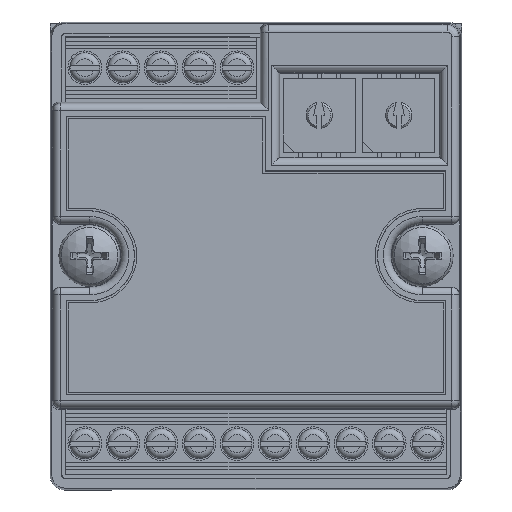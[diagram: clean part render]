
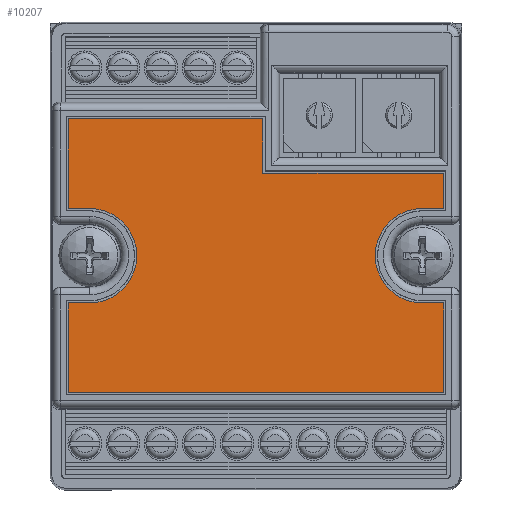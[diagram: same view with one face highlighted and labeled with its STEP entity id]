
A CAD part, top view. The second image highlights one B-rep face of the part: STEP entity #10207.
In plain terms, the highlighted planar face has unit normal (0, 0, 1).
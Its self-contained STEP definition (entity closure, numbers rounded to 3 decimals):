
#9753=CARTESIAN_POINT('',(-9.897,-24.589,23.45));
#9754=VERTEX_POINT('',#9753);
#9755=CARTESIAN_POINT('',(16.045,-24.589,23.45));
#9756=VERTEX_POINT('',#9755);
#9757=CARTESIAN_POINT('',(-9.897,-24.589,23.45));
#9758=DIRECTION('',(1.0,0.0,0.0));
#9759=VECTOR('',#9758,25.942);
#9760=LINE('',#9757,#9759);
#9761=EDGE_CURVE('',#9754,#9756,#9760,.T.);
#9793=CARTESIAN_POINT('',(16.045,-31.871,23.45));
#9794=VERTEX_POINT('',#9793);
#9795=CARTESIAN_POINT('',(16.045,-24.589,23.45));
#9796=DIRECTION('',(0.0,-1.0,0.0));
#9797=VECTOR('',#9796,7.282);
#9798=LINE('',#9795,#9797);
#9799=EDGE_CURVE('',#9756,#9794,#9798,.T.);
#9824=CARTESIAN_POINT('',(40.182,-31.871,23.45));
#9825=VERTEX_POINT('',#9824);
#9826=CARTESIAN_POINT('',(16.045,-31.871,23.45));
#9827=DIRECTION('',(1.0,0.0,0.0));
#9828=VECTOR('',#9827,24.137);
#9829=LINE('',#9826,#9828);
#9830=EDGE_CURVE('',#9794,#9825,#9829,.T.);
#9855=CARTESIAN_POINT('',(40.182,-36.56,23.45));
#9856=VERTEX_POINT('',#9855);
#9857=CARTESIAN_POINT('',(40.182,-31.871,23.45));
#9858=DIRECTION('',(0.0,-1.0,0.0));
#9859=VECTOR('',#9858,4.689);
#9860=LINE('',#9857,#9859);
#9861=EDGE_CURVE('',#9825,#9856,#9860,.T.);
#9886=CARTESIAN_POINT('',(37.368,-36.56,23.45));
#9887=VERTEX_POINT('',#9886);
#9888=CARTESIAN_POINT('',(40.182,-36.56,23.45));
#9889=DIRECTION('',(-1.0,0.0,0.0));
#9890=VECTOR('',#9889,2.815);
#9891=LINE('',#9888,#9890);
#9892=EDGE_CURVE('',#9856,#9887,#9891,.T.);
#9917=CARTESIAN_POINT('',(37.368,-49.178,23.45));
#9918=VERTEX_POINT('',#9917);
#9919=CARTESIAN_POINT('',(37.368,-42.869,23.45));
#9920=DIRECTION('',(0.0,0.0,1.0));
#9921=DIRECTION('',(0.0,1.0,0.0));
#9922=AXIS2_PLACEMENT_3D('',#9919,#9920,#9921);
#9923=CIRCLE('',#9922,6.309);
#9924=EDGE_CURVE('',#9887,#9918,#9923,.T.);
#9950=CARTESIAN_POINT('',(40.182,-49.178,23.45));
#9951=VERTEX_POINT('',#9950);
#9952=CARTESIAN_POINT('',(37.368,-49.178,23.45));
#9953=DIRECTION('',(1.0,0.0,0.0));
#9954=VECTOR('',#9953,2.815);
#9955=LINE('',#9952,#9954);
#9956=EDGE_CURVE('',#9918,#9951,#9955,.T.);
#9981=CARTESIAN_POINT('',(40.182,-61.149,23.45));
#9982=VERTEX_POINT('',#9981);
#9983=CARTESIAN_POINT('',(40.182,-49.178,23.45));
#9984=DIRECTION('',(0.0,-1.0,0.0));
#9985=VECTOR('',#9984,11.971);
#9986=LINE('',#9983,#9985);
#9987=EDGE_CURVE('',#9951,#9982,#9986,.T.);
#10012=CARTESIAN_POINT('',(-9.897,-61.149,23.45));
#10013=VERTEX_POINT('',#10012);
#10014=CARTESIAN_POINT('',(40.182,-61.149,23.45));
#10015=DIRECTION('',(-1.0,0.0,0.0));
#10016=VECTOR('',#10015,50.08);
#10017=LINE('',#10014,#10016);
#10018=EDGE_CURVE('',#9982,#10013,#10017,.T.);
#10043=CARTESIAN_POINT('',(-9.897,-49.178,23.45));
#10044=VERTEX_POINT('',#10043);
#10045=CARTESIAN_POINT('',(-9.897,-61.149,23.45));
#10046=DIRECTION('',(0.0,1.0,0.0));
#10047=VECTOR('',#10046,11.971);
#10048=LINE('',#10045,#10047);
#10049=EDGE_CURVE('',#10013,#10044,#10048,.T.);
#10074=CARTESIAN_POINT('',(-7.082,-49.178,23.45));
#10075=VERTEX_POINT('',#10074);
#10076=CARTESIAN_POINT('',(-9.897,-49.178,23.45));
#10077=DIRECTION('',(1.0,0.0,0.0));
#10078=VECTOR('',#10077,2.815);
#10079=LINE('',#10076,#10078);
#10080=EDGE_CURVE('',#10044,#10075,#10079,.T.);
#10105=CARTESIAN_POINT('',(-7.082,-36.56,23.45));
#10106=VERTEX_POINT('',#10105);
#10107=CARTESIAN_POINT('',(-7.082,-42.869,23.45));
#10108=DIRECTION('',(0.0,0.0,1.0));
#10109=DIRECTION('',(0.0,-1.0,0.0));
#10110=AXIS2_PLACEMENT_3D('',#10107,#10108,#10109);
#10111=CIRCLE('',#10110,6.309);
#10112=EDGE_CURVE('',#10075,#10106,#10111,.T.);
#10138=CARTESIAN_POINT('',(-9.897,-36.56,23.45));
#10139=VERTEX_POINT('',#10138);
#10140=CARTESIAN_POINT('',(-7.082,-36.56,23.45));
#10141=DIRECTION('',(-1.0,0.0,0.0));
#10142=VECTOR('',#10141,2.815);
#10143=LINE('',#10140,#10142);
#10144=EDGE_CURVE('',#10106,#10139,#10143,.T.);
#10169=CARTESIAN_POINT('',(-9.897,-36.56,23.45));
#10170=DIRECTION('',(0.0,1.0,0.0));
#10171=VECTOR('',#10170,11.971);
#10172=LINE('',#10169,#10171);
#10173=EDGE_CURVE('',#10139,#9754,#10172,.T.);
#10186=CARTESIAN_POINT('',(14.259,-43.752,23.45));
#10187=DIRECTION('',(0.0,0.0,1.0));
#10188=DIRECTION('',(1.0,0.0,0.0));
#10189=AXIS2_PLACEMENT_3D('',#10186,#10187,#10188);
#10190=PLANE('',#10189);
#10191=ORIENTED_EDGE('',*,*,#9761,.F.);
#10192=ORIENTED_EDGE('',*,*,#10173,.F.);
#10193=ORIENTED_EDGE('',*,*,#10144,.F.);
#10194=ORIENTED_EDGE('',*,*,#10112,.F.);
#10195=ORIENTED_EDGE('',*,*,#10080,.F.);
#10196=ORIENTED_EDGE('',*,*,#10049,.F.);
#10197=ORIENTED_EDGE('',*,*,#10018,.F.);
#10198=ORIENTED_EDGE('',*,*,#9987,.F.);
#10199=ORIENTED_EDGE('',*,*,#9956,.F.);
#10200=ORIENTED_EDGE('',*,*,#9924,.F.);
#10201=ORIENTED_EDGE('',*,*,#9892,.F.);
#10202=ORIENTED_EDGE('',*,*,#9861,.F.);
#10203=ORIENTED_EDGE('',*,*,#9830,.F.);
#10204=ORIENTED_EDGE('',*,*,#9799,.F.);
#10205=EDGE_LOOP('',(#10191,#10192,#10193,#10194,#10195,#10196,#10197,#10198,#10199,#10200,#10201,#10202,#10203,#10204));
#10206=FACE_OUTER_BOUND('',#10205,.T.);
#10207=ADVANCED_FACE('',(#10206),#10190,.T.);
